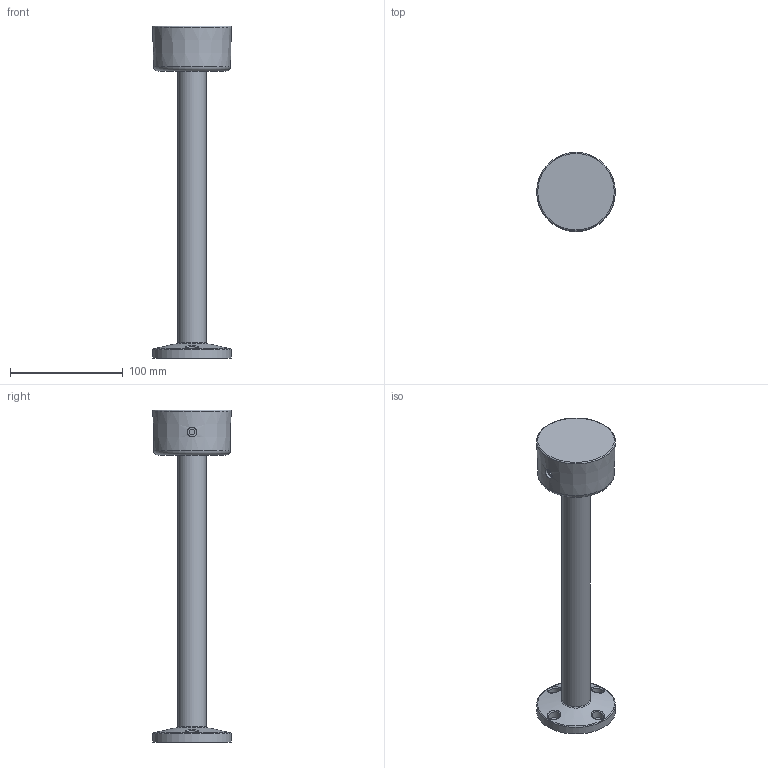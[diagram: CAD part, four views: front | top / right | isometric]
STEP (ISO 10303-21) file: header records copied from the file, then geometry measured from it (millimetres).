
FILE_DESCRIPTION(('STEP AP214'), '1');
FILE_NAME('扻豵鵨255', '', ('UNSPECIFIED'), ('UNSPECIFIED'), 'C3D Converter', 'C3D Toolkit', '');
FILE_SCHEMA(('AUTOMOTIVE_DESIGN { 1 0 10303 214 3 1 1}'));
Length unit declared in the file: millimetre
Bounding box: 70 x 70 x 295 mm (x, y, z)
Volume: 189509.7 mm3; surface area: 70603.2 mm2
Topology: 1 solids, 1 shells, 136 faces, 372 edges, 245 vertices
Faces by surface type: plane 79, cylinder 21, torus 16, cone 15, bspline 5
Full cylindrical faces by diameter (mm): 5 x1, 5.6 x4, 8.5 x1, 10 x4, 20 x1, 25 x1, 70 x1
Entity records: 8123 total; most frequent: CARTESIAN_POINT 3733, ORIENTED_EDGE 688, DIRECTION 622, EDGE_CURVE 344, VERTEX_POINT 242, AXIS2_PLACEMENT_3D 227, EDGE_LOOP 176, LINE 168
